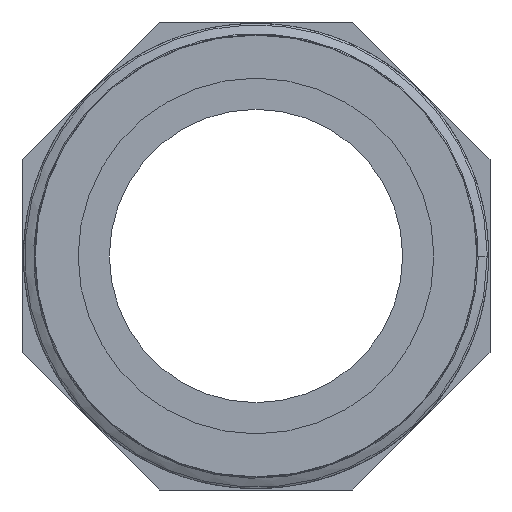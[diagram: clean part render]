
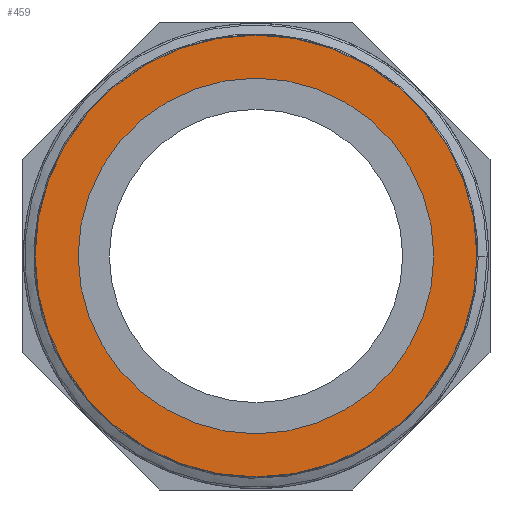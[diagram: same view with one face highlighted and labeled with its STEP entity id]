
A CAD part, front view. The second image highlights one B-rep face of the part: STEP entity #459.
In plain terms, the highlighted planar face has unit normal (0, -1, 0).
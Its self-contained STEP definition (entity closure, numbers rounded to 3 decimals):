
#21=FACE_BOUND('',#100,.T.);
#29=PLANE('',#490);
#49=CIRCLE('',#487,22.8);
#50=CIRCLE('',#489,28.328);
#68=FACE_OUTER_BOUND('',#99,.T.);
#99=EDGE_LOOP('',(#367));
#100=EDGE_LOOP('',(#368));
#208=VERTEX_POINT('',#3398);
#224=VERTEX_POINT('',#8740);
#278=EDGE_CURVE('',#224,#224,#49,.T.);
#279=EDGE_CURVE('',#208,#208,#50,.T.);
#367=ORIENTED_EDGE('',*,*,#279,.T.);
#368=ORIENTED_EDGE('',*,*,#278,.T.);
#459=ADVANCED_FACE('',(#68,#21),#29,.F.);
#487=AXIS2_PLACEMENT_3D('',#8741,#538,#539);
#489=AXIS2_PLACEMENT_3D('',#8743,#542,#543);
#490=AXIS2_PLACEMENT_3D('',#8744,#544,#545);
#538=DIRECTION('center_axis',(0.,1.,0.));
#539=DIRECTION('ref_axis',(-1.,0.,0.));
#542=DIRECTION('center_axis',(0.,-1.,0.));
#543=DIRECTION('ref_axis',(-1.,0.,0.));
#544=DIRECTION('center_axis',(0.,1.,0.));
#545=DIRECTION('ref_axis',(0.,0.,1.));
#3398=CARTESIAN_POINT('',(28.328,-33.,0.));
#8740=CARTESIAN_POINT('',(22.8,-33.,0.));
#8741=CARTESIAN_POINT('Origin',(0.,-33.,0.));
#8743=CARTESIAN_POINT('Origin',(0.,-33.,0.));
#8744=CARTESIAN_POINT('Origin',(0.,-33.,0.));
